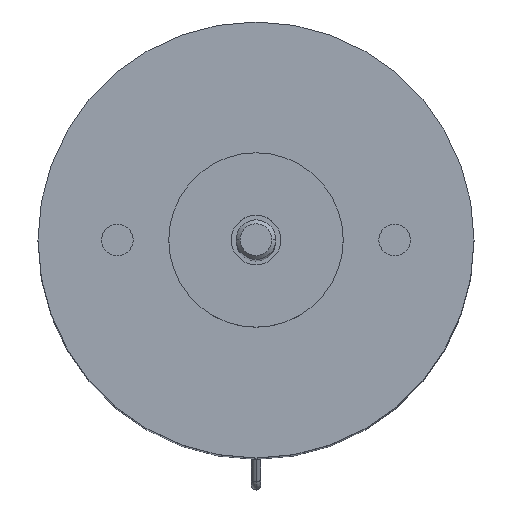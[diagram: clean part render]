
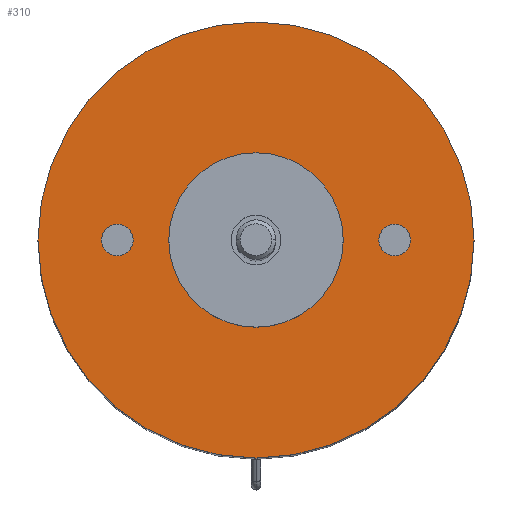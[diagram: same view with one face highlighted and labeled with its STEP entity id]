
A CAD part, top view. The second image highlights one B-rep face of the part: STEP entity #310.
In plain terms, the highlighted planar face has unit normal (0, 0, 1).
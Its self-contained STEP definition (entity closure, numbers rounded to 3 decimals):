
#10 = EDGE_CURVE ( 'NONE', #2939, #2937, #2399, .T. ) ;
#18 = EDGE_CURVE ( 'NONE', #2935, #2934, #2409, .T. ) ;
#61 = CIRCLE ( 'NONE', #2287, 11. ) ;
#310 = ADVANCED_FACE ( 'NONE', ( #2452, #2455, #2446, #2449 ), #2585, .T. ) ;
#408 = CARTESIAN_POINT ( 'NONE',  ( 5.874, 0.888, 20. ) ) ;
#409 = CARTESIAN_POINT ( 'NONE',  ( -11.326, 0.888, 20. ) ) ;
#504 = CARTESIAN_POINT ( 'NONE',  ( -0.326, 0.888, 20. ) ) ;
#610 = CARTESIAN_POINT ( 'NONE',  ( -0.326, 0.888, 20. ) ) ;
#611 = DIRECTION ( 'NONE',  ( 0., 0., 1. ) ) ;
#612 = DIRECTION ( 'NONE',  ( 1., 0., 0. ) ) ;
#685 = CARTESIAN_POINT ( 'NONE',  ( 10.674, 0.888, 20. ) ) ;
#890 = EDGE_CURVE ( 'NONE', #1525, #2933, #61, .T. ) ;
#1085 = CIRCLE ( 'NONE', #1804, 4.4 ) ;
#1086 = CIRCLE ( 'NONE', #1805, 0.8 ) ;
#1088 = CIRCLE ( 'NONE', #1807, 0.8 ) ;
#1094 = CIRCLE ( 'NONE', #1810, 0.8 ) ;
#1461 = EDGE_LOOP ( 'NONE', ( #2788, #2787 ) ) ;
#1473 = EDGE_LOOP ( 'NONE', ( #2786, #2785 ) ) ;
#1474 = EDGE_LOOP ( 'NONE', ( #2782, #2781 ) ) ;
#1476 = EDGE_LOOP ( 'NONE', ( #2784, #2783 ) ) ;
#1523 = VERTEX_POINT ( 'NONE', #1703 ) ;
#1524 = VERTEX_POINT ( 'NONE', #408 ) ;
#1525 = VERTEX_POINT ( 'NONE', #409 ) ;
#1703 = CARTESIAN_POINT ( 'NONE',  ( 7.474, 0.888, 20. ) ) ;
#1804 = AXIS2_PLACEMENT_3D ( 'NONE', #504, #1846, #1847 ) ;
#1805 = AXIS2_PLACEMENT_3D ( 'NONE', #1849, #1850, #1851 ) ;
#1807 = AXIS2_PLACEMENT_3D ( 'NONE', #1858, #1859, #1860 ) ;
#1810 = AXIS2_PLACEMENT_3D ( 'NONE', #1978, #1979, #1980 ) ;
#1822 = AXIS2_PLACEMENT_3D ( 'NONE', #2049, #2050, #2051 ) ;
#1846 = DIRECTION ( 'NONE',  ( 0., 0., 1. ) ) ;
#1847 = DIRECTION ( 'NONE',  ( 1., 0., 0. ) ) ;
#1848 = CARTESIAN_POINT ( 'NONE',  ( -6.526, 0.888, 20. ) ) ;
#1849 = CARTESIAN_POINT ( 'NONE',  ( -7.326, 0.888, 20. ) ) ;
#1850 = DIRECTION ( 'NONE',  ( 0., 0., 1. ) ) ;
#1851 = DIRECTION ( 'NONE',  ( 1., 0., 0. ) ) ;
#1858 = CARTESIAN_POINT ( 'NONE',  ( 6.674, 0.888, 20. ) ) ;
#1859 = DIRECTION ( 'NONE',  ( 0., 0., 1. ) ) ;
#1860 = DIRECTION ( 'NONE',  ( 1., 0., 0. ) ) ;
#1861 = CARTESIAN_POINT ( 'NONE',  ( -8.126, 0.888, 20. ) ) ;
#1862 = CARTESIAN_POINT ( 'NONE',  ( -4.726, 0.888, 20. ) ) ;
#1863 = CARTESIAN_POINT ( 'NONE',  ( 4.074, 0.888, 20. ) ) ;
#1978 = CARTESIAN_POINT ( 'NONE',  ( 6.674, 0.888, 20. ) ) ;
#1979 = DIRECTION ( 'NONE',  ( 0., 0., 1. ) ) ;
#1980 = DIRECTION ( 'NONE',  ( 1., 0., 0. ) ) ;
#2049 = CARTESIAN_POINT ( 'NONE',  ( -0.326, 0.888, 20. ) ) ;
#2050 = DIRECTION ( 'NONE',  ( 0., 0., 1. ) ) ;
#2051 = DIRECTION ( 'NONE',  ( 1., 0., 0. ) ) ;
#2141 = EDGE_CURVE ( 'NONE', #2937, #2939, #1085, .T. ) ;
#2142 = EDGE_CURVE ( 'NONE', #2934, #2935, #1086, .T. ) ;
#2144 = EDGE_CURVE ( 'NONE', #1523, #1524, #1088, .T. ) ;
#2153 = AXIS2_PLACEMENT_3D ( 'NONE', #610, #611, #612 ) ;
#2159 = AXIS2_PLACEMENT_3D ( 'NONE', #2520, #2521, #2522 ) ;
#2178 = AXIS2_PLACEMENT_3D ( 'NONE', #2583, #2575, #2586 ) ;
#2287 = AXIS2_PLACEMENT_3D ( 'NONE', #2866, #2867, #2868 ) ;
#2399 = CIRCLE ( 'NONE', #2153, 4.4 ) ;
#2409 = CIRCLE ( 'NONE', #2159, 0.8 ) ;
#2446 = FACE_OUTER_BOUND ( 'NONE', #1476, .T. ) ;
#2449 = FACE_BOUND ( 'NONE', #1474, .T. ) ;
#2452 = FACE_BOUND ( 'NONE', #1461, .T. ) ;
#2455 = FACE_BOUND ( 'NONE', #1473, .T. ) ;
#2520 = CARTESIAN_POINT ( 'NONE',  ( -7.326, 0.888, 20. ) ) ;
#2521 = DIRECTION ( 'NONE',  ( 0., 0., 1. ) ) ;
#2522 = DIRECTION ( 'NONE',  ( 1., 0., 0. ) ) ;
#2575 = DIRECTION ( 'NONE',  ( 0., 0., 1. ) ) ;
#2583 = CARTESIAN_POINT ( 'NONE',  ( -0.326, 0.888, 20. ) ) ;
#2585 = PLANE ( 'NONE',  #2178 ) ;
#2586 = DIRECTION ( 'NONE',  ( 1., 0., 0. ) ) ;
#2639 = CIRCLE ( 'NONE', #1822, 11. ) ;
#2781 = ORIENTED_EDGE ( 'NONE', *, *, #10, .F. ) ;
#2782 = ORIENTED_EDGE ( 'NONE', *, *, #2141, .F. ) ;
#2783 = ORIENTED_EDGE ( 'NONE', *, *, #3184, .T. ) ;
#2784 = ORIENTED_EDGE ( 'NONE', *, *, #890, .T. ) ;
#2785 = ORIENTED_EDGE ( 'NONE', *, *, #3155, .F. ) ;
#2786 = ORIENTED_EDGE ( 'NONE', *, *, #2144, .F. ) ;
#2787 = ORIENTED_EDGE ( 'NONE', *, *, #18, .F. ) ;
#2788 = ORIENTED_EDGE ( 'NONE', *, *, #2142, .F. ) ;
#2866 = CARTESIAN_POINT ( 'NONE',  ( -0.326, 0.888, 20. ) ) ;
#2867 = DIRECTION ( 'NONE',  ( 0., 0., 1. ) ) ;
#2868 = DIRECTION ( 'NONE',  ( 1., 0., 0. ) ) ;
#2933 = VERTEX_POINT ( 'NONE', #685 ) ;
#2934 = VERTEX_POINT ( 'NONE', #1848 ) ;
#2935 = VERTEX_POINT ( 'NONE', #1861 ) ;
#2937 = VERTEX_POINT ( 'NONE', #1862 ) ;
#2939 = VERTEX_POINT ( 'NONE', #1863 ) ;
#3155 = EDGE_CURVE ( 'NONE', #1524, #1523, #1094, .T. ) ;
#3184 = EDGE_CURVE ( 'NONE', #2933, #1525, #2639, .T. ) ;
